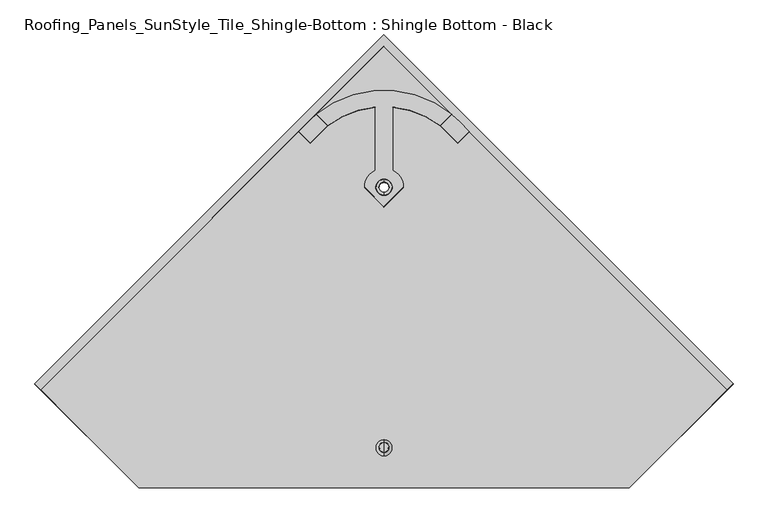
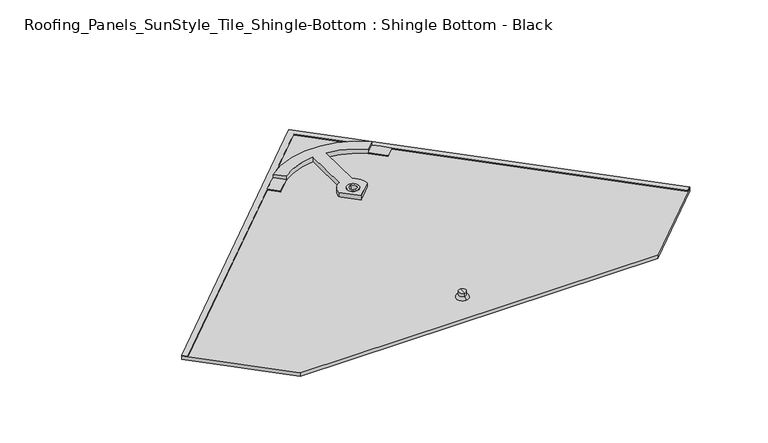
"""IFC4 building model written with IfcOpenShell, lengths in millimetres: proxy geometry, Roofing_Panels_SunStyle_Tile_Shingle-Bottom : Shingle Bottom - Black."""

from ifc_helpers import new_model, si_unit, point, frame, frame_2d, origin, place, context, project, spatial, polyline, circle_curve, ellipse_curve, trimmed, segment, composite_curve, outline, extrude, source, transform, mapped, element, save
from ifc_brep_helpers import plane_surface, cylinder_surface, revolved_surface, advanced_brep


def roofing_panels_sunstyle_tile_shingle_bottom_shingle_bottom_4eb983e8(model_context):
    return source(origin(), model_context, "Body", "SolidModel", [
        advanced_brep(
        [(0.0, -14.7575066, 18.1989674), (0.0, -1.4244261, 17.9756715), (0.0, -1.7927352, -4.0161979), (0.0, -15.1258157, -3.792902), (0.0, -20.2567354, 18.2910658), (0.0, 4.0748028, 17.8835731), (0.0, -15.3077391, 23.2048726), (0.0, -0.7068762, 22.9603445), (0.0, -7.8732792, 31.0854967), (0.0, -0.5728477, 30.9632326), (0.0, -15.1737107, 31.2077608), (0.0, -8.4592754, -3.9045499)],
        [
            (0, 1, circle_curve(frame((0.0, -8.0909663, 18.0873194), z_axis=(0.0, -0.016745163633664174, -0.9998597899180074), x_axis=(0.0, 0.9998597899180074, -0.016745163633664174)), 6.6674751)),
            (1, 2),
            (2, 3, circle_curve(frame((0.0, -8.4592754, -3.9045499), z_axis=(0.0, 0.016745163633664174, 0.9998597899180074), x_axis=(0.0, 0.9998597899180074, -0.016745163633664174)), 6.6674751)),
            (3, 0),
            (1, 0, circle_curve(frame((0.0, -8.0909663, 18.0873194), z_axis=(0.0, -0.016745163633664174, -0.9998597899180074), x_axis=(0.0, 0.9998597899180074, -0.016745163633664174)), 6.6674751)),
            (3, 2, circle_curve(frame((0.0, -8.4592754, -3.9045499), z_axis=(0.0, 0.016745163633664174, 0.9998597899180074), x_axis=(0.0, 0.9998597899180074, -0.016745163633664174)), 6.6674751)),
            (4, 5, circle_curve(frame((0.0, -8.0909663, 18.0873194), z_axis=(0.0, -0.016745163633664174, -0.9998597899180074), x_axis=(0.0, 0.9998597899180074, -0.016745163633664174)), 12.1674751)),
            (5, 1),
            (0, 4),
            (5, 4, circle_curve(frame((0.0, -8.0909663, 18.0873194), z_axis=(0.0, -0.016745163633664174, -0.9998597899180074), x_axis=(0.0, 0.9998597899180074, -0.016745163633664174)), 12.1674751)),
            (6, 7, circle_curve(frame((0.0, -8.0073077, 23.0826085), z_axis=(0.0, -0.016745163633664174, -0.9998597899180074), x_axis=(0.0, 0.9998597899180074, -0.016745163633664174)), 7.3014552)),
            (7, 5, circle_curve(frame((0.0, -1.0110741, 17.8835731), z_axis=(-1.0, 0.0, 0.0), x_axis=(0.0, 1.0, 0.0)), 5.0858769)),
            (4, 6, circle_curve(frame((0.0, -15.1737107, 18.120762), z_axis=(-1.0, 0.0, 0.0), x_axis=(0.0, -0.9994391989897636, 0.03348563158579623)), 5.0858769)),
            (7, 6, circle_curve(frame((0.0, -8.0073077, 23.0826085), z_axis=(0.0, -0.016745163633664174, -0.9998597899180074), x_axis=(0.0, 0.9998597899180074, -0.016745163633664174)), 7.3014552)),
            (8, 9),
            (9, 10, circle_curve(frame((0.0, -7.8732792, 31.0854967), z_axis=(0.0, 0.016745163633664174, 0.9998597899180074), x_axis=(0.0, 0.9998597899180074, -0.016745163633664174)), 7.3014552)),
            (10, 8),
            (10, 9, circle_curve(frame((0.0, -7.8732792, 31.0854967), z_axis=(0.0, 0.016745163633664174, 0.9998597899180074), x_axis=(0.0, 0.9998597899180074, -0.016745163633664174)), 7.3014552)),
            (2, 11),
            (11, 3),
            (9, 7),
            (6, 10),
        ],
        [
            cylinder_surface(frame((0.0, -7.7389212, 39.1080636), z_axis=(0.0, 0.016745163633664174, 0.9998597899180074), x_axis=(0.0, 0.9998597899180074, -0.016745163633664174)), 6.6674751),
            plane_surface(frame((0.0, -8.0909663, 18.0873194), z_axis=(0.0, -0.016745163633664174, -0.9998597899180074), x_axis=(0.0, 0.9998597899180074, -0.016745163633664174))),
            revolved_surface(trimmed(ellipse_curve(frame((0.0, -1.0110741, 17.8835731), z_axis=(1.0, 0.0, 0.0), x_axis=(0.0, 1.0, 0.0)), 5.0858769, 5.0858769), [point((0.0, 4.0748028, 17.8835731))], [point((0.0, -0.7068762, 22.9603445))], True, "CARTESIAN"), (0.0, -7.7389212, 39.1080636), (0.0, 0.016745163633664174, 0.9998597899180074)),
            plane_surface(frame((0.0, -7.8732792, 31.0854967), z_axis=(0.0, 0.016745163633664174, 0.9998597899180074), x_axis=(0.0, 0.9998597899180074, -0.016745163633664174))),
            plane_surface(frame((0.0, -8.4592754, -3.9045499), z_axis=(0.0, -0.016745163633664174, -0.9998597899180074), x_axis=(0.0, 0.9998597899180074, -0.016745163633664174))),
            cylinder_surface(frame((0.0, -7.7389212, 39.1080636), z_axis=(0.0, 0.016745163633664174, 0.9998597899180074), x_axis=(0.0, 0.9998597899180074, -0.016745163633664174)), 7.3014552),
        ],
        [
            (0, [[1, 2, 3, 4]]),
            (0, [[5, -4, 6, -2]]),
            (1, [[7, 8, -1, 9]]),
            (1, [[10, -9, -5, -8]]),
            (2, [[11, 12, -7, 13]]),
            (2, [[14, -13, -10, -12]]),
            (3, [[15, 16, 17]]),
            (3, [[-17, 18, -15]]),
            (4, [[-3, 19, 20]]),
            (4, [[-6, -20, -19]]),
            (5, [[-16, 21, -11, 22]]),
            (5, [[-18, -22, -14, -21]]),
        ],
    ),
        advanced_brep(
        [(0.0, 377.324245, 20.2441668), (0.0, 392.657046, 19.9873805), (0.0, 397.1564146, 19.9120273), (0.0, 372.8248764, 20.31952), (0.0, 377.0563228, 4.2464102), (0.0, 392.3891229, 3.9896239), (0.0, 372.5569538, 4.3217634), (0.0, 396.888492, 3.9142707)],
        [
            (0, 1, circle_curve(frame((0.0, 384.9906455, 20.1157737), z_axis=(0.0, -0.016745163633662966, -0.9998597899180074), x_axis=(0.0, 0.9998597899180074, -0.016745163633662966)), 7.6674755)),
            (1, 2),
            (2, 3, circle_curve(frame((0.0, 384.9906455, 20.1157737), z_axis=(0.0, 0.016745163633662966, 0.9998597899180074), x_axis=(0.0, 0.9998597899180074, -0.016745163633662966)), 12.1674751)),
            (3, 0),
            (1, 0, circle_curve(frame((0.0, 384.9906455, 20.1157737), z_axis=(0.0, -0.016745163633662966, -0.9998597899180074), x_axis=(0.0, 0.9998597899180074, -0.016745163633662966)), 7.6674755)),
            (3, 2, circle_curve(frame((0.0, 384.9906455, 20.1157737), z_axis=(0.0, 0.016745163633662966, 0.9998597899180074), x_axis=(0.0, 0.9998597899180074, -0.016745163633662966)), 12.1674751)),
            (4, 5, circle_curve(frame((0.0, 384.7227229, 4.118017), z_axis=(0.0, -0.016745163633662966, -0.9998597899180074), x_axis=(0.0, 0.9998597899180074, -0.016745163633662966)), 7.6674751)),
            (5, 1),
            (0, 4),
            (5, 4, circle_curve(frame((0.0, 384.7227229, 4.118017), z_axis=(0.0, -0.016745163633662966, -0.9998597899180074), x_axis=(0.0, 0.9998597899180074, -0.016745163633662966)), 7.6674751)),
            (6, 7, circle_curve(frame((0.0, 384.7227229, 4.118017), z_axis=(0.0, -0.016745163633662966, -0.9998597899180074), x_axis=(0.0, 0.9998597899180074, -0.016745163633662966)), 12.1674751)),
            (7, 5),
            (4, 6),
            (7, 6, circle_curve(frame((0.0, 384.7227229, 4.118017), z_axis=(0.0, -0.016745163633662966, -0.9998597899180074), x_axis=(0.0, 0.9998597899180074, -0.016745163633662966)), 12.1674751)),
            (2, 7),
            (6, 3),
        ],
        [
            plane_surface(frame((0.0, 384.9906455, 20.1157737), z_axis=(0.0, 0.016745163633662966, 0.9998597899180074), x_axis=(0.0, 0.9998597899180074, -0.016745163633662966))),
            revolved_surface(polyline([(0.0, 392.65704554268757, 19.987380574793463), (0.0, 392.3891229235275, 3.989623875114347)]), (0.0, 384.9906455, 20.1157737), (0.0, 0.016745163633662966, 0.9998597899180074)),
            plane_surface(frame((0.0, 384.7227229, 4.118017), z_axis=(0.0, -0.016745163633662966, -0.9998597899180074), x_axis=(0.0, 0.9998597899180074, -0.016745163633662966))),
            cylinder_surface(frame((0.0, 384.9906455, 20.1157737), z_axis=(0.0, 0.016745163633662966, 0.9998597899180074), x_axis=(0.0, 0.9998597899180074, -0.016745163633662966)), 12.1674751),
        ],
        [
            (0, [[1, 2, 3, 4]]),
            (0, [[5, -4, 6, -2]]),
            (1, [[7, 8, -1, 9]]),
            (1, [[10, -9, -5, -8]]),
            (2, [[11, 12, -7, 13]]),
            (2, [[14, -13, -10, -12]]),
            (3, [[-3, 15, -11, 16]]),
            (3, [[-6, -16, -14, -15]]),
        ],
    ),
        extrude(outline(polyline([(0.0, -11.9999999), (0.0, 0.0), (732.8605981, 1e-07), (732.9633598, 732.8605909), (744.9633596, 732.8589083), (744.8589156, -12.0), (0.0, -11.9999999)])), frame((518.2473516, 79.9143813, 14.9652572), z_axis=(0.0, 0.0167451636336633, 0.9998597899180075), x_axis=(-0.7071563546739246, 0.7069580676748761, -0.011839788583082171)), (0.0, 0.0, 1.0), 1.5),
        extrude(outline(polyline([(995.0941907, 0.0), (995.1986348, -744.8589083), (774.0645456, -744.8589084), (250.2662826, -221.1340872), (250.2352752, 0.0), (995.0941907, 0.0)]), holes=[composite_curve([segment(trimmed(circle_curve(frame_2d((554.58267, -440.5728374)), 8.0), [point((548.9254192, -434.9163798))], [point((560.2399209, -446.2292951))], True, "CARTESIAN"), True, "CONTINUOUS"), segment(trimmed(circle_curve(frame_2d((554.58267, -440.5728374)), 8.0), [point((560.2399209, -446.2292951))], [point((548.9254192, -434.9163798))], True, "CARTESIAN"), True, "CONTINUOUS")], self_intersect=False), composite_curve([segment(trimmed(circle_curve(frame_2d((832.3366848, -163.1020652)), 12.0), [point((823.8508085, -154.6173788))], [point((840.822561, -171.5867517))], True, "CARTESIAN"), True, "CONTINUOUS"), segment(trimmed(circle_curve(frame_2d((832.3366848, -163.1020652)), 12.0), [point((840.822561, -171.5867517))], [point((823.8508085, -154.6173788))], True, "CARTESIAN"), True, "CONTINUOUS")], self_intersect=False)]), frame((-703.686858, -88.6323676, 10.2869442), z_axis=(0.0, 0.01674516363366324, 0.9998597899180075), x_axis=(0.707156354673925, 0.7069580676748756, -0.011839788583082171)), (0.0, 0.0, 1.0), 7.5),
        advanced_brep(
        [(-102.0275718, 494.9998575, 18.0150106), (-84.944396, 477.9190769, 18.3010712), (-13.3, 505.8109871, 17.8339511), (-13.3, 411.0229875, 19.4214142), (-29.3894281, 384.8188678, 19.860268), (0.0, 355.4335605, 20.3523988), (29.3894281, 384.8188678, 19.860268), (13.3, 411.0229875, 19.4214142), (13.3, 505.8109871, 17.8339511), (84.944396, 477.9190769, 18.3010712), (102.0275718, 494.9998575, 18.0150106), (-12.0, 384.8188678, 19.860268), (12.0, 384.8188678, 19.860268), (-102.0275718, 494.8324058, 8.0164127), (102.0275718, 494.8324058, 8.0164127), (114.2509691, 483.797483, 8.2012202), (128.9467134, 469.1058594, 8.4472683), (111.2690438, 451.4306685, 8.7432838), (84.9431983, 477.7528228, 8.3024532), (13.3, 505.6435355, 7.8353532), (13.3, 410.8555359, 9.4228163), (29.3894281, 384.6514162, 9.8616701), (0.0, 355.2661088, 10.3538009), (-29.3894281, 384.6514162, 9.8616701), (-13.3, 410.8555359, 9.4228163), (-13.3, 505.6435355, 7.8353532), (-84.944396, 477.7516253, 8.3024733), (-111.2690438, 451.4306685, 8.7432838), (-128.9467134, 469.1058594, 8.4472683), (-114.2509691, 483.797483, 8.2012202), (-12.0, 384.6514162, 9.8616701), (12.0, 384.6514162, 9.8616701), (102.0275718, 494.8742688, 10.5160622), (-102.0275718, 494.8742688, 10.5160622), (128.9467134, 469.1477223, 10.9469178), (114.2509691, 483.8393459, 10.7008697), (84.944396, 477.7934882, 10.8021227), (111.2690438, 451.4725314, 11.2429333), (-128.9467134, 469.1477223, 10.9469178), (-111.2690438, 451.4725314, 11.2429333), (-84.9431983, 477.7946858, 10.8021027), (-114.2509691, 483.8393459, 10.7008697)],
        [
            (0, 1),
            (1, 2, circle_curve(frame((0.0, 365.7229584, 20.180077), z_axis=(0.0, -0.01674516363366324, -0.9998597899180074), x_axis=(1.0, 0.0, 0.0)), 140.737522)),
            (2, 3),
            (3, 4, circle_curve(frame((0.0, 384.8188678, 19.860268), z_axis=(0.0, 0.01674516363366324, 0.9998597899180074), x_axis=(1.0, 0.0, 0.0)), 29.3894281)),
            (4, 5),
            (5, 6),
            (6, 7, circle_curve(frame((0.0, 384.8188678, 19.860268), z_axis=(0.0, 0.01674516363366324, 0.9998597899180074), x_axis=(1.0, 0.0, 0.0)), 29.3894281)),
            (7, 8),
            (8, 9, circle_curve(frame((0.0, 365.7229584, 20.180077), z_axis=(0.0, -0.01674516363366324, -0.9998597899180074), x_axis=(1.0, 0.0, 0.0)), 140.737522)),
            (9, 10),
            (10, 0, circle_curve(frame((0.0, 369.7299846, 20.1129693), z_axis=(0.0, 0.01674516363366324, 0.9998597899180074), x_axis=(1.0, 0.0, 0.0)), 161.57527)),
            (11, 12, circle_curve(frame((0.0, 384.8188678, 19.860268), z_axis=(0.0, -0.01674516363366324, -0.9998597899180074), x_axis=(1.0, 0.0, 0.0)), 12.0)),
            (12, 11, circle_curve(frame((0.0, 384.8188678, 19.860268), z_axis=(0.0, -0.01674516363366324, -0.9998597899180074), x_axis=(1.0, 0.0, 0.0)), 12.0)),
            (13, 14, circle_curve(frame((0.0, 369.562533, 10.1143714), z_axis=(0.0, -0.01674516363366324, -0.9998597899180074), x_axis=(1.0, 0.0, 0.0)), 161.57527)),
            (14, 15, circle_curve(frame((0.0, 369.562533, 10.1143714), z_axis=(0.0, -0.01674516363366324, -0.9998597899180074), x_axis=(1.0, 0.0, 0.0)), 161.57527)),
            (15, 16),
            (16, 17),
            (17, 18),
            (18, 19, circle_curve(frame((0.0, 365.5555068, 10.1814791), z_axis=(0.0, 0.01674516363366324, 0.9998597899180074), x_axis=(1.0, 0.0, 0.0)), 140.737522)),
            (19, 20),
            (20, 21, circle_curve(frame((0.0, 384.6514162, 9.8616701), z_axis=(0.0, -0.01674516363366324, -0.9998597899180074), x_axis=(1.0, 0.0, 0.0)), 29.3894281)),
            (21, 22),
            (22, 23),
            (23, 24, circle_curve(frame((0.0, 384.6514162, 9.8616701), z_axis=(0.0, -0.01674516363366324, -0.9998597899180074), x_axis=(1.0, 0.0, 0.0)), 29.3894281)),
            (24, 25),
            (25, 26, circle_curve(frame((0.0, 365.5555068, 10.1814791), z_axis=(0.0, 0.01674516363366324, 0.9998597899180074), x_axis=(1.0, 0.0, 0.0)), 140.737522)),
            (26, 27),
            (27, 28),
            (28, 29),
            (29, 13, circle_curve(frame((0.0, 369.562533, 10.1143714), z_axis=(0.0, -0.01674516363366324, -0.9998597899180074), x_axis=(-1.0, 0.0, 0.0)), 161.57527)),
            (30, 31, circle_curve(frame((0.0, 384.6514162, 9.8616701), z_axis=(0.0, 0.01674516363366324, 0.9998597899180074), x_axis=(1.0, 0.0, 0.0)), 12.0)),
            (31, 30, circle_curve(frame((0.0, 384.6514162, 9.8616701), z_axis=(0.0, 0.01674516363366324, 0.9998597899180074), x_axis=(1.0, 0.0, 0.0)), 12.0)),
            (2, 25),
            (24, 3),
            (23, 4),
            (22, 5),
            (21, 6),
            (20, 7),
            (19, 8),
            (10, 32),
            (32, 14),
            (13, 33),
            (33, 0),
            (11, 30),
            (31, 12),
            (34, 35),
            (35, 32, circle_curve(frame((0.0, 369.6043959, 12.6140208), z_axis=(0.0, 0.01674516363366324, 0.9998597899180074), x_axis=(1.0, 0.0, 0.0)), 161.57527)),
            (32, 36),
            (36, 37),
            (37, 34),
            (38, 39),
            (39, 40),
            (40, 33),
            (33, 41, circle_curve(frame((0.0, 369.6043959, 12.6140208), z_axis=(0.0, 0.01674516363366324, 0.9998597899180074), x_axis=(-1.0, 0.0, 0.0)), 161.57527)),
            (41, 38),
            (34, 16),
            (15, 35),
            (37, 17),
            (36, 18),
            (38, 28),
            (27, 39),
            (26, 40),
            (29, 41),
            (40, 1),
            (9, 36),
        ],
        [
            plane_surface(frame((-102.0275718, 494.9998575, 18.0150106), z_axis=(0.0, 0.01674516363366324, 0.9998597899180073), x_axis=(0.7071067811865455, -0.7070076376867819, 0.011840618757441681))),
            plane_surface(frame((-102.0275718, 494.8324058, 8.0164127), z_axis=(0.0, -0.01674516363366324, -0.9998597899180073), x_axis=(-0.7071067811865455, 0.7070076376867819, -0.011840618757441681))),
            plane_surface(frame((-13.3, 505.8109871, 17.8339511), z_axis=(-1.0000000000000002, 0.0, 0.0), x_axis=(0.0, -0.01674516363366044, -0.9998597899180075))),
            cylinder_surface(frame((0.0, 384.6514162, 9.8616701), z_axis=(0.0, 0.01674516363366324, 0.9998597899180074), x_axis=(1.0, 0.0, 0.0)), 29.3894281),
            plane_surface(frame((-29.3894281, 384.8188678, 19.860268), z_axis=(-0.7071067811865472, -0.7070076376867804, 0.011840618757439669), x_axis=(0.0, -0.016745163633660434, -0.9998597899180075))),
            plane_surface(frame((0.0, 355.4335605, 20.3523988), z_axis=(0.7071067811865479, -0.7070076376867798, 0.011840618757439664), x_axis=(0.0, -0.01674516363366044, -0.9998597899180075))),
            plane_surface(frame((13.3, 411.0229875, 19.4214142), z_axis=(1.0000000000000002, 0.0, 0.0), x_axis=(0.0, -0.01674516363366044, -0.9998597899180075))),
            cylinder_surface(frame((0.0, 369.562533, 10.1143714), z_axis=(0.0, 0.01674516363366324, 0.9998597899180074), x_axis=(1.0, 0.0, 0.0)), 161.57527),
            revolved_surface(polyline([(12.0, 384.6514162, 9.8616701), (12.0, 384.8188678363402, 19.860267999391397)]), (0.0, 384.6514162, 9.8616701), (0.0, -0.01674516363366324, -0.9998597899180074)),
            plane_surface(frame((128.9467134, 469.1477223, 10.9469178), z_axis=(0.0, 0.01674516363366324, 0.9998597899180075), x_axis=(-0.7071563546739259, 0.7069580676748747, -0.011839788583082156))),
            plane_surface(frame((128.9467134, 469.1477223, 10.9469178), z_axis=(0.7070572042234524, 0.7070572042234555, -0.011841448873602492), x_axis=(0.0, -0.016745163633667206, -0.9998597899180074))),
            plane_surface(frame((111.2690438, 451.4725314, 11.2429333), z_axis=(0.7071067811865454, -0.7070076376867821, 0.011840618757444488), x_axis=(0.0, -0.016745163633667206, -0.9998597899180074))),
            plane_surface(frame((84.9431983, 477.7946858, 10.8021027), z_axis=(-0.7071067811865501, -0.7070076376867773, 0.011840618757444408), x_axis=(0.0, -0.016745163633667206, -0.9998597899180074))),
            plane_surface(frame((-128.9467134, 469.1477223, 10.9469178), z_axis=(-0.7071067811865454, -0.7070076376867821, 0.011840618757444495), x_axis=(0.0, -0.016745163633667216, -0.9998597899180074))),
            plane_surface(frame((-111.2690438, 451.4725314, 11.2429333), z_axis=(0.7071067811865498, -0.7070076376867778, 0.011840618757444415), x_axis=(0.0, -0.016745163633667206, -0.9998597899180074))),
            cylinder_surface(frame((0.0, 369.562533, 10.1143714), z_axis=(0.0, 0.01674516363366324, 0.9998597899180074), x_axis=(-1.0, 0.0, 0.0)), 161.57527),
            plane_surface(frame((-114.2509691, 483.8393459, 10.7008697), z_axis=(-0.7070572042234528, 0.7070572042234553, -0.011841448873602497), x_axis=(0.0, -0.016745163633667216, -0.9998597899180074))),
            plane_surface(frame((-102.0275718, 494.9998575, 18.0150106), z_axis=(-0.7071067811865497, -0.7070076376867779, 0.01184061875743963), x_axis=(0.0, -0.01674516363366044, -0.9998597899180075))),
            plane_surface(frame((84.944396, 477.9190769, 18.3010712), z_axis=(0.7071067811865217, -0.7070076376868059, 0.011840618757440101), x_axis=(0.0, -0.01674516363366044, -0.9998597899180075))),
            revolved_surface(polyline([(140.737522, 365.5555068, 10.1814791), (140.737522, 365.72295843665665, 20.180077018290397)]), (0.0, 365.5555068, 10.1814791), (0.0, -0.01674516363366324, -0.9998597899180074)),
            revolved_surface(polyline([(140.737522, 365.55550679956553, 10.181479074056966), (140.737522, 365.72295843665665, 20.180077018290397)]), (0.0, 365.5555068, 10.1814791), (0.0, -0.01674516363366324, -0.9998597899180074)),
        ],
        [
            (0, [[1, 2, 3, 4, 5, 6, 7, 8, 9, 10, 11], [12, 13]]),
            (1, [[14, 15, 16, 17, 18, 19, 20, 21, 22, 23, 24, 25, 26, 27, 28, 29, 30], [31, 32]]),
            (2, [[-3, 33, -25, 34]]),
            (3, [[-4, -34, -24, 35]]),
            (4, [[-5, -35, -23, 36]]),
            (5, [[-6, -36, -22, 37]]),
            (3, [[-7, -37, -21, 38]]),
            (6, [[-8, -38, -20, 39]]),
            (7, [[-11, 40, 41, -14, 42, 43]]),
            (8, [[-12, 44, -32, 45]]),
            (8, [[-13, -45, -31, -44]]),
            (9, [[46, 47, 48, 49, 50]]),
            (9, [[51, 52, 53, 54, 55]]),
            (10, [[-46, 56, -16, 57]]),
            (11, [[-50, 58, -17, -56]]),
            (7, [[-47, -57, -15, -41]]),
            (12, [[-49, 59, -18, -58]]),
            (13, [[-51, 60, -28, 61]]),
            (14, [[-52, -61, -27, 62]]),
            (15, [[-54, -42, -30, 63]]),
            (16, [[-55, -63, -29, -60]]),
            (17, [[-1, -43, -53, 64]]),
            (18, [[-10, 65, -48, -40]]),
            (19, [[-2, -64, -62, -26, -33]]),
            (20, [[-9, -39, -19, -59, -65]]),
        ],
    ),
    ])


if __name__ == "__main__":
    model = new_model("IFC4")
    model_context = context("Model", 3, world=origin())
    ifc_project = project(units=[si_unit("LENGTHUNIT", "METRE", prefix="MILLI")], contexts=[model_context])
    site = spatial("IfcSite", under=ifc_project)
    building = spatial("IfcBuilding", under=site)
    placement = place(None, origin())
    roofing_panels_sunstyle_tile_shingle_bottom_shingle_bottom_shape = roofing_panels_sunstyle_tile_shingle_bottom_shingle_bottom_4eb983e8(model_context)
    element("IfcBuildingElementProxy", 1, Name="Roofing_Panels_SunStyle_Tile_Shingle-Bottom : Shingle Bottom - Black", ObjectType="Roofing_Panels_SunStyle_Tile_Shingle-Bottom : Shingle Bottom - Black", at=placement, inside=building, context=model_context, shape_type="MappedRepresentation", body=[
        mapped(roofing_panels_sunstyle_tile_shingle_bottom_shingle_bottom_shape, transform((0.0, 0.0, 0.0), x_axis=(1.0, 0.0, 0.0), y_axis=(0.0, 1.0, 0.0), z_axis=(0.0, 0.0, 1.0))),
    ])
    save(model, "model.ifc")
